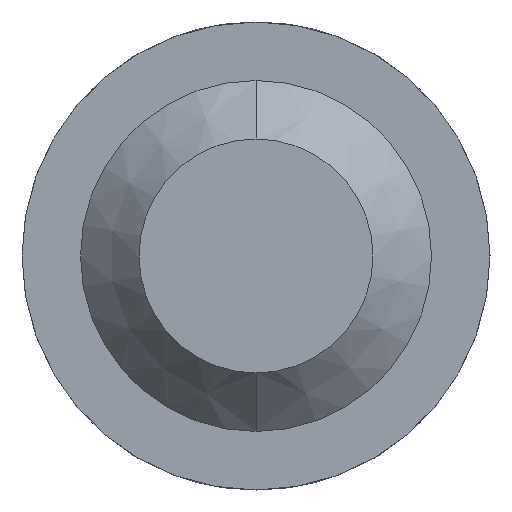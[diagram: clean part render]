
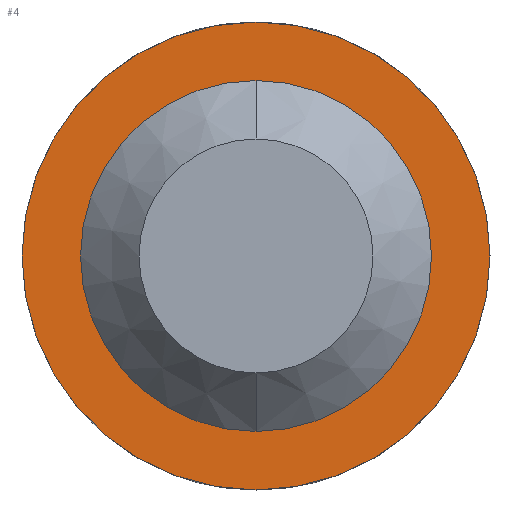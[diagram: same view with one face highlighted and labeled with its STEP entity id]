
A CAD part, front view. The second image highlights one B-rep face of the part: STEP entity #4.
In plain terms, the highlighted planar face has unit normal (0, -1, 0).
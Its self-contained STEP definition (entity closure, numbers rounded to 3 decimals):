
#3 = AXIS2_PLACEMENT_3D ( 'NONE', #265, #507, #80 ) ;
#4 = ADVANCED_FACE ( 'NONE', ( #103, #415 ), #228, .T. ) ;
#15 = CARTESIAN_POINT ( 'NONE',  ( 0., 80.5, 0. ) ) ;
#16 = CARTESIAN_POINT ( 'NONE',  ( 0., 80.5, 3. ) ) ;
#24 = DIRECTION ( 'NONE',  ( 0., 1., 0. ) ) ;
#44 = CARTESIAN_POINT ( 'NONE',  ( 0., 80.5, 0. ) ) ;
#58 = CARTESIAN_POINT ( 'NONE',  ( 0., 80.5, 0. ) ) ;
#68 = CARTESIAN_POINT ( 'NONE',  ( 0., 80.5, -4. ) ) ;
#80 = DIRECTION ( 'NONE',  ( 0., 0., 1. ) ) ;
#85 = ORIENTED_EDGE ( 'NONE', *, *, #398, .F. ) ;
#98 = VERTEX_POINT ( 'NONE', #278 ) ;
#99 = ORIENTED_EDGE ( 'NONE', *, *, #340, .T. ) ;
#103 = FACE_BOUND ( 'NONE', #154, .T. ) ;
#135 = CIRCLE ( 'NONE', #417, 3. ) ;
#145 = DIRECTION ( 'NONE',  ( 0., 1., 0. ) ) ;
#153 = CIRCLE ( 'NONE', #493, 4. ) ;
#154 = EDGE_LOOP ( 'NONE', ( #268, #99 ) ) ;
#159 = EDGE_CURVE ( 'NONE', #414, #170, #481, .T. ) ;
#170 = VERTEX_POINT ( 'NONE', #250 ) ;
#222 = CARTESIAN_POINT ( 'NONE',  ( -4., 80.5, 0. ) ) ;
#228 = PLANE ( 'NONE',  #512 ) ;
#244 = DIRECTION ( 'NONE',  ( 0., 0., 1. ) ) ;
#250 = CARTESIAN_POINT ( 'NONE',  ( 0., 80.5, -3. ) ) ;
#255 = AXIS2_PLACEMENT_3D ( 'NONE', #44, #478, #244 ) ;
#260 = DIRECTION ( 'NONE',  ( 0., 0., -1. ) ) ;
#265 = CARTESIAN_POINT ( 'NONE',  ( 0., 80.5, 0. ) ) ;
#268 = ORIENTED_EDGE ( 'NONE', *, *, #159, .T. ) ;
#278 = CARTESIAN_POINT ( 'NONE',  ( 0., 80.5, 4. ) ) ;
#298 = CIRCLE ( 'NONE', #3, 4. ) ;
#307 = DIRECTION ( 'NONE',  ( 0., -1., 0. ) ) ;
#340 = EDGE_CURVE ( 'NONE', #170, #414, #135, .T. ) ;
#349 = VERTEX_POINT ( 'NONE', #68 ) ;
#378 = EDGE_LOOP ( 'NONE', ( #422, #85 ) ) ;
#380 = DIRECTION ( 'NONE',  ( 0., 0., 1. ) ) ;
#398 = EDGE_CURVE ( 'NONE', #349, #98, #153, .T. ) ;
#414 = VERTEX_POINT ( 'NONE', #16 ) ;
#415 = FACE_OUTER_BOUND ( 'NONE', #378, .T. ) ;
#417 = AXIS2_PLACEMENT_3D ( 'NONE', #15, #24, #492 ) ;
#422 = ORIENTED_EDGE ( 'NONE', *, *, #424, .F. ) ;
#424 = EDGE_CURVE ( 'NONE', #98, #349, #298, .T. ) ;
#478 = DIRECTION ( 'NONE',  ( 0., 1., 0. ) ) ;
#481 = CIRCLE ( 'NONE', #255, 3. ) ;
#492 = DIRECTION ( 'NONE',  ( 0., 0., 1. ) ) ;
#493 = AXIS2_PLACEMENT_3D ( 'NONE', #58, #145, #380 ) ;
#507 = DIRECTION ( 'NONE',  ( 0., 1., 0. ) ) ;
#512 = AXIS2_PLACEMENT_3D ( 'NONE', #222, #307, #260 ) ;
